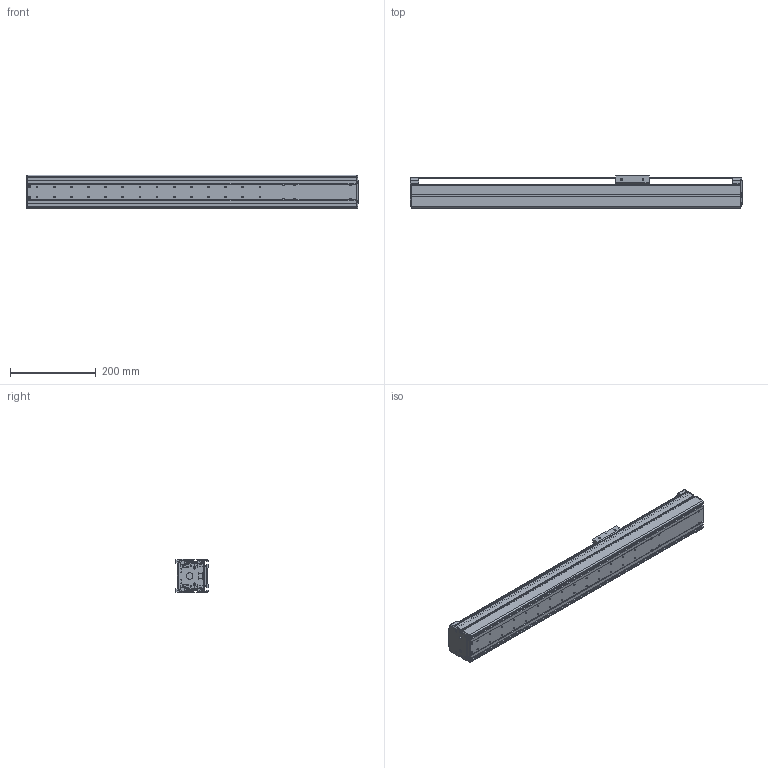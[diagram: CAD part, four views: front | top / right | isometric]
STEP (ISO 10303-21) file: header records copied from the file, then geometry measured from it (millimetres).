
FILE_DESCRIPTION((''),'2;1');
FILE_NAME('BE10E-ST-S_N-45_IGS_PRT','2017-06-17T',(' '),(''),'PRO/ENGINEER BY PARAMETRIC TECHNOLOGY CORPORATION, 2015030','PRO/ENGINEER BY PARAMETRIC TECHNOLOGY CORPORATION, 2015030','');
FILE_SCHEMA(('CONFIG_CONTROL_DESIGN'));
Length unit declared in the file: millimetre
Products named in the file (1): BE10E-ST-S_N-45_IGS_PRT
Bounding box: 775 x 75 x 78 mm (x, y, z)
Volume: 892626.7 mm3; surface area: 603375.6 mm2
Topology: 3 solids, 65 shells, 1139 faces, 3043 edges, 1972 vertices
Faces by surface type: cylinder 562, plane 424, torus 66, sphere 42, cone 38, bspline 7
Entity records: 36762 total; most frequent: CARTESIAN_POINT 7558, DIRECTION 6350, ORIENTED_EDGE 5808, EDGE_CURVE 3023, AXIS2_PLACEMENT_3D 2394, VERTEX_POINT 1972, VECTOR 1562, LINE 1562
